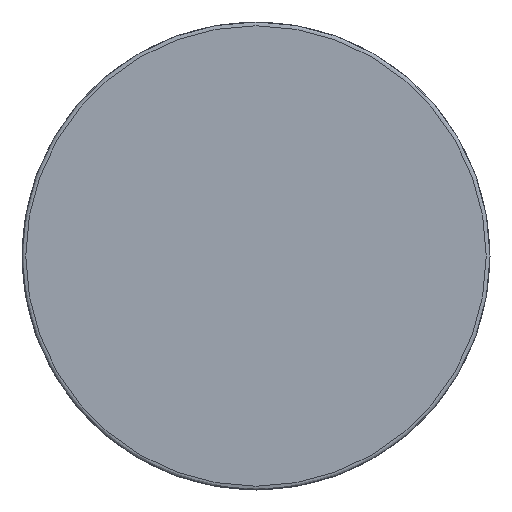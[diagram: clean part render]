
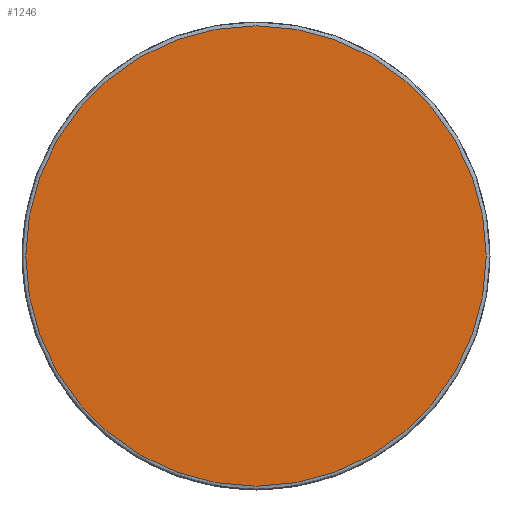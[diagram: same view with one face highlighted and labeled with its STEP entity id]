
A CAD part, left-side view. The second image highlights one B-rep face of the part: STEP entity #1246.
In plain terms, the highlighted planar face has unit normal (-1, 0, 0).
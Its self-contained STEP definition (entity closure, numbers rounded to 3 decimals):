
#1221=CARTESIAN_POINT('',(-388.534,-561.813,517.173));
#1222=DIRECTION('',(-1.0,0.0,0.0));
#1223=DIRECTION('',(0.0,1.0,0.0));
#1224=AXIS2_PLACEMENT_3D('',#1221,#1222,#1223);
#1225=PLANE('',#1224);
#1226=CARTESIAN_POINT('',(-388.534,-427.513,443.372));
#1227=VERTEX_POINT('',#1226);
#1228=CARTESIAN_POINT('',(-388.534,-548.513,443.372));
#1229=VERTEX_POINT('',#1228);
#1230=CARTESIAN_POINT('',(-388.534,-488.013,443.372));
#1231=DIRECTION('',(-1.0,0.0,0.0));
#1232=DIRECTION('',(0.0,1.0,0.0));
#1233=AXIS2_PLACEMENT_3D('',#1230,#1231,#1232);
#1234=CIRCLE('',#1233,60.5);
#1235=EDGE_CURVE('',#1227,#1229,#1234,.T.);
#1236=ORIENTED_EDGE('',*,*,#1235,.T.);
#1237=CARTESIAN_POINT('',(-388.534,-488.013,443.372));
#1238=DIRECTION('',(-1.0,0.0,0.0));
#1239=DIRECTION('',(0.0,1.0,0.0));
#1240=AXIS2_PLACEMENT_3D('',#1237,#1238,#1239);
#1241=CIRCLE('',#1240,60.5);
#1242=EDGE_CURVE('',#1229,#1227,#1241,.T.);
#1243=ORIENTED_EDGE('',*,*,#1242,.T.);
#1244=EDGE_LOOP('',(#1236,#1243));
#1245=FACE_OUTER_BOUND('',#1244,.T.);
#1246=ADVANCED_FACE('',(#1245),#1225,.T.);
